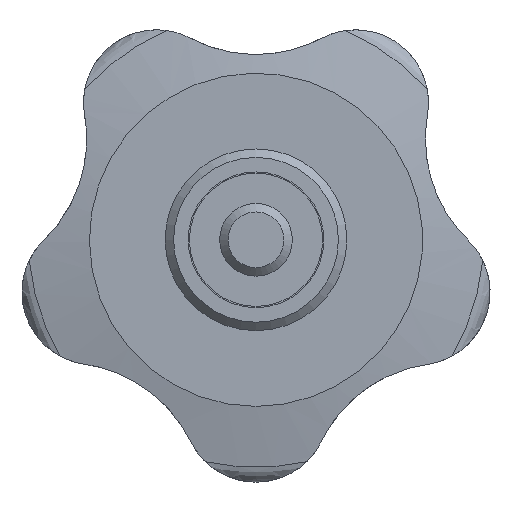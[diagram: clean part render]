
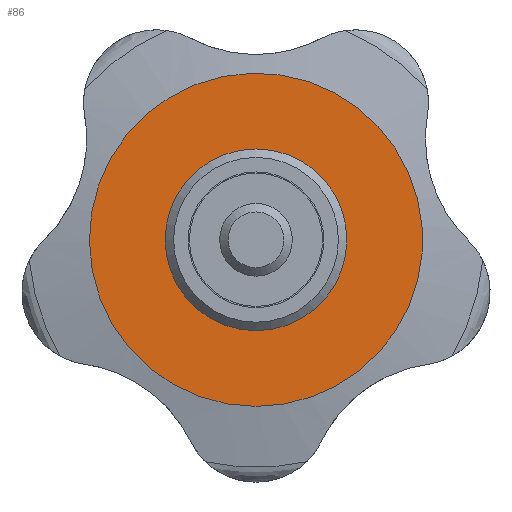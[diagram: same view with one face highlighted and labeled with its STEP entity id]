
A CAD part, front view. The second image highlights one B-rep face of the part: STEP entity #86.
In plain terms, the highlighted planar face has unit normal (0, -1, 0).
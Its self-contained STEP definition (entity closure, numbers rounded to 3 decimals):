
#86 = ADVANCED_FACE( '', ( #133, #134 ), #135, .F. );
#133 = FACE_BOUND( '', #214, .T. );
#134 = FACE_OUTER_BOUND( '', #215, .T. );
#135 = PLANE( '', #216 );
#214 = EDGE_LOOP( '', ( #425 ) );
#215 = EDGE_LOOP( '', ( #426 ) );
#216 = AXIS2_PLACEMENT_3D( '', #427, #428, #429 );
#425 = ORIENTED_EDGE( '', *, *, #632, .F. );
#426 = ORIENTED_EDGE( '', *, *, #593, .T. );
#427 = CARTESIAN_POINT( '', ( 13.75, 14., 0. ) );
#428 = DIRECTION( '', ( 0., 1., 0. ) );
#429 = DIRECTION( '', ( 0., 0., 1. ) );
#593 = EDGE_CURVE( '', #699, #699, #700, .T. );
#632 = EDGE_CURVE( '', #766, #766, #767, .T. );
#699 = VERTEX_POINT( '', #1001 );
#700 = CIRCLE( '', #1002, 13.75 );
#766 = VERTEX_POINT( '', #1317 );
#767 = CIRCLE( '', #1318, 7.5 );
#1001 = CARTESIAN_POINT( '', ( 0., 14., -13.75 ) );
#1002 = AXIS2_PLACEMENT_3D( '', #1430, #1431, #1432 );
#1317 = CARTESIAN_POINT( '', ( 0., 14., -7.5 ) );
#1318 = AXIS2_PLACEMENT_3D( '', #1454, #1455, #1456 );
#1430 = CARTESIAN_POINT( '', ( 0., 14., 0. ) );
#1431 = DIRECTION( '', ( 0., -1., 0. ) );
#1432 = DIRECTION( '', ( 0., 0., -1. ) );
#1454 = CARTESIAN_POINT( '', ( 0., 14., 0. ) );
#1455 = DIRECTION( '', ( 0., -1., 0. ) );
#1456 = DIRECTION( '', ( 0., 0., -1. ) );
